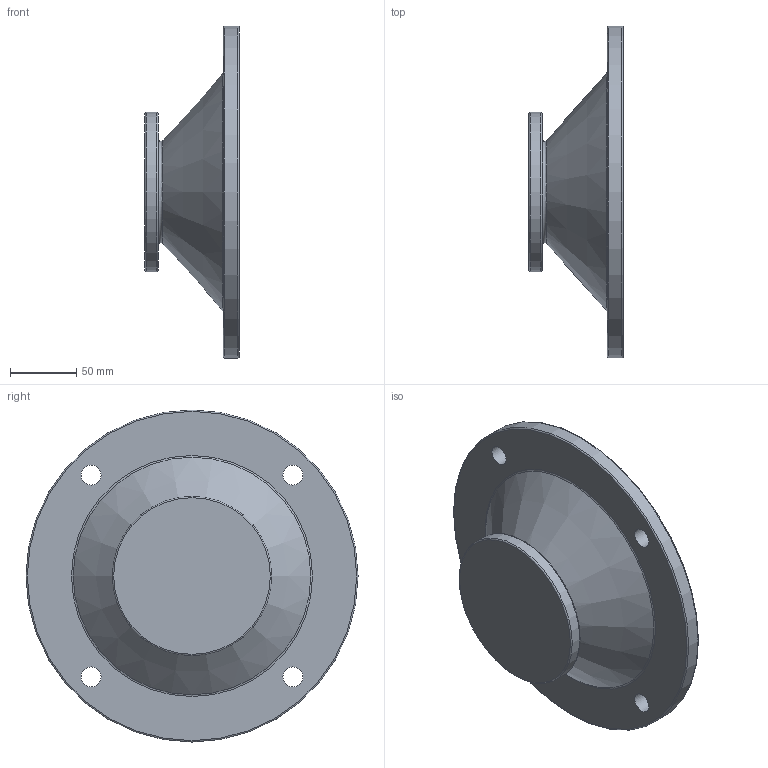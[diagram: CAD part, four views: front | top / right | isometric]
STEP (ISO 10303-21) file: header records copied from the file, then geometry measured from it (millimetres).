
FILE_DESCRIPTION((''),'2;1');
FILE_NAME('F:\PAWEŁ\ZLECENIA\2011 DualSystem\Przekładnie DK\001 Modele\DKAB30_\DK_30_STEP\100_B5_L71.stp','2012-07-04T15:58:03',('admin'),(''),'Autodesk Inventor 2009','Autodesk Inventor 2009','');
FILE_SCHEMA(('AUTOMOTIVE_DESIGN { 1 0 10303 214 1 1 1 1 }'));
Length unit declared in the file: millimetre
Products named in the file (1): 100_B5_L71
Bounding box: 71 x 250 x 250 mm (x, y, z)
Volume: 638284.2 mm3; surface area: 158770.4 mm2
Topology: 1 solids, 1 shells, 29 faces, 56 edges, 35 vertices
Faces by surface type: plane 11, bspline 6, cylinder 5, torus 5, cone 2
Full cylindrical faces by diameter (mm): 48 x1, 120 x1, 180 x1, 250 x1
Entity records: 875 total; most frequent: CARTESIAN_POINT 278, DIRECTION 116, ORIENTED_EDGE 78, EDGE_LOOP 60, AXIS2_PLACEMENT_3D 53, EDGE_CURVE 39, VERTEX_POINT 35, FACE_BOUND 31
